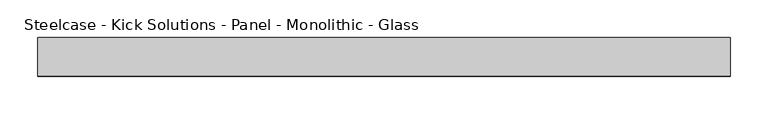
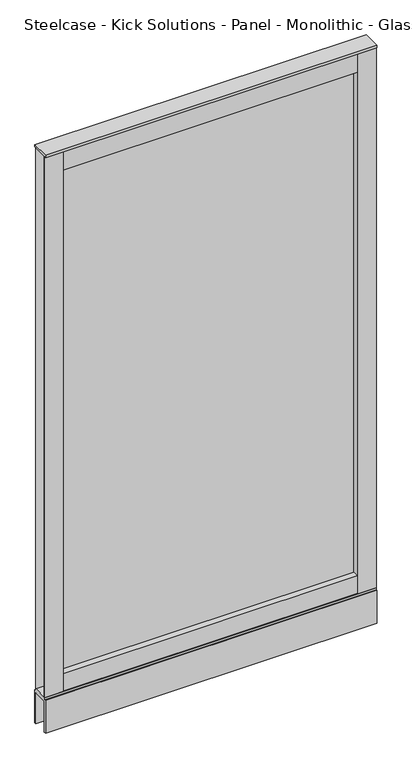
"""IFC4 building model written with IfcOpenShell, lengths in millimetres: furniture geometry, Steelcase - Kick Solutions - Panel - Monolithic - Glass : 66H x 36W."""

from ifc_helpers import new_model, si_unit, frame, origin, place, context, project, spatial, polyline, outline, extrude, source, transform, mapped, element, save


def steelcase_kick_solutions_panel_monolithic_glass_ded480c1(model_context):
    return source(origin(), model_context, "Body", "SweptSolid", [
        extrude(outline(polyline([(863.6006661, -5.08), (863.6006661, -45.7200015), (50.8006646, -45.7200015), (50.8006646, -5.08), (863.6006661, -5.08)])), frame((0.0, 0.0, 101.7169049), z_axis=(0.0, 0.0, 1.0), x_axis=(1.0, 0.0, 0.0)), (0.0, 0.0, 1.0), 50.6830951),
        extrude(outline(polyline([(863.6006661, -5.08), (863.6006661, -45.7200015), (50.8006646, -45.7200015), (50.8006646, -5.08), (863.6006661, -5.08)])), frame((0.0, 0.0, 1619.25), z_axis=(0.0, 0.0, 1.0), x_axis=(1.0, 0.0, 0.0)), (0.0, 0.0, 1.0), 57.15),
        extrude(outline(polyline([(50.8006646, -3.1743148), (50.8006646, -47.6243142), (0.0, -47.6243142), (0.0, -45.7200015), (47.7526646, -45.7200015), (47.7526646, -5.08), (0.0, -5.08), (0.0, -3.1743148), (50.8006646, -3.1743148)])), frame((0.0, 0.0, 101.7169049), z_axis=(0.0, 0.0, 1.0), x_axis=(1.0, 0.0, 0.0)), (0.0, 0.0, 1.0), 1574.6830951),
        extrude(outline(polyline([(863.6006661, -3.1743148), (914.4, -3.1743148), (914.4, -5.08), (866.6486661, -5.08), (866.6486661, -45.7200015), (914.4, -45.7200015), (914.4, -47.6243142), (863.6006661, -47.6243142), (863.6006661, -3.1743148)])), frame((0.0, 0.0, 101.7169049), z_axis=(0.0, 0.0, 1.0), x_axis=(1.0, 0.0, 0.0)), (0.0, 0.0, 1.0), 1574.6830951),
        extrude(outline(polyline([(863.6006661, -28.422537), (50.8006646, -28.422537), (50.8006646, -25.4), (863.6006661, -25.4), (863.6006661, -28.422537)])), frame((0.0, 0.0, 152.4), z_axis=(0.0, 0.0, 1.0), x_axis=(1.0, 0.0, 0.0)), (0.0, 0.0, 1.0), 1466.85),
        extrude(outline(polyline([(914.4, 0.0), (914.4, -50.8000015), (0.0, -50.8000015), (0.0, 0.0), (914.4, 0.0)])), frame((0.0, 0.0, 1676.4), z_axis=(0.0, 0.0, 1.0), x_axis=(1.0, 0.0, 0.0)), (0.0, 0.0, 1.0), 6.35),
        extrude(outline(polyline([(0.0, 0.0), (-5.08, 0.0), (-5.08, 90.2869018), (-45.7200015, 90.2869018), (-45.7200015, 0.0), (-50.8000015, 0.0), (-50.8000015, 95.3669018), (-47.6243142, 95.3669018), (-47.6243142, 101.7169049), (-3.1743148, 101.7169049), (-3.1743148, 95.3669018), (0.0, 95.3669018), (0.0, 0.0)])), frame((0.0, 0.0, 0.0), z_axis=(1.0, 0.0, 0.0), x_axis=(0.0, 1.0, 0.0)), (0.0, 0.0, 1.0), 914.4),
    ])


if __name__ == "__main__":
    model = new_model("IFC4")
    model_context = context("Model", 3, world=origin())
    ifc_project = project(units=[si_unit("LENGTHUNIT", "METRE", prefix="MILLI")], contexts=[model_context])
    site = spatial("IfcSite", under=ifc_project)
    building = spatial("IfcBuilding", under=site)
    placement = place(None, origin())
    steelcase_kick_solutions_panel_monolithic_glass_shape = steelcase_kick_solutions_panel_monolithic_glass_ded480c1(model_context)
    element("IfcFurniture", 1, ObjectType="Steelcase - Kick Solutions - Panel - Monolithic - Glass : 66H x 36W", at=placement, inside=building, context=model_context, shape_type="MappedRepresentation", body=[
        mapped(steelcase_kick_solutions_panel_monolithic_glass_shape, transform((0.0, 0.0, 0.0), x_axis=(1.0, 0.0, 0.0), y_axis=(0.0, 1.0, 0.0), z_axis=(0.0, 0.0, 1.0))),
    ])
    save(model, "model.ifc")
